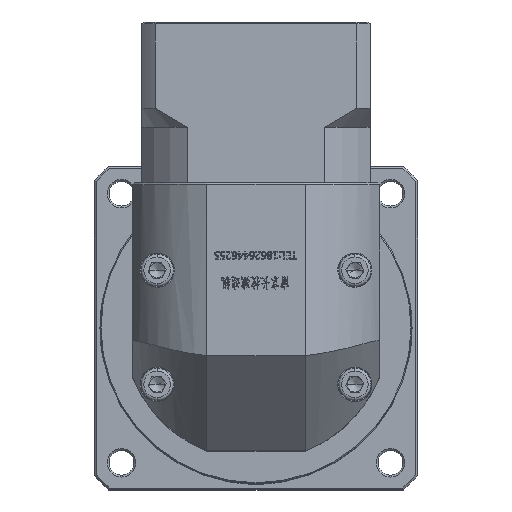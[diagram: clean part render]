
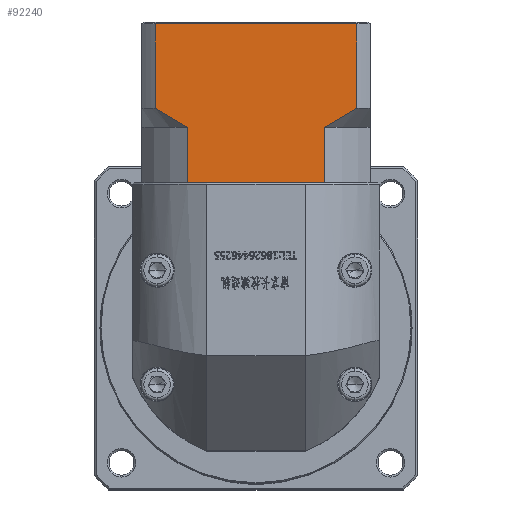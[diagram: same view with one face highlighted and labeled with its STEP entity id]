
A CAD part, top view. The second image highlights one B-rep face of the part: STEP entity #92240.
In plain terms, the highlighted planar face has unit normal (0, 0, 1).
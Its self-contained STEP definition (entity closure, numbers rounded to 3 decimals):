
#3182 = LINE ( 'NONE', #9549, #107344 ) ;
#5200 = DIRECTION ( 'NONE',  ( 0., 1., 0. ) ) ;
#5538 = CARTESIAN_POINT ( 'NONE',  ( -33.225, 38.259, 245.652 ) ) ;
#9475 = VECTOR ( 'NONE', #63470, 1000. ) ;
#9549 = CARTESIAN_POINT ( 'NONE',  ( -45.197, 38.259, 245.652 ) ) ;
#12611 = DIRECTION ( 'NONE',  ( 0., -1., 0. ) ) ;
#16058 = VERTEX_POINT ( 'NONE', #50449 ) ;
#18042 = CARTESIAN_POINT ( 'NONE',  ( 2.831, 52.759, 245.652 ) ) ;
#18544 = CARTESIAN_POINT ( 'NONE',  ( -45.197, 80.459, 245.652 ) ) ;
#19484 = CARTESIAN_POINT ( 'NONE',  ( -33.225, 52.759, 245.652 ) ) ;
#19737 = CARTESIAN_POINT ( 'NONE',  ( -45.197, 38.259, 245.652 ) ) ;
#23014 = ORIENTED_EDGE ( 'NONE', *, *, #70176, .F. ) ;
#23106 = ORIENTED_EDGE ( 'NONE', *, *, #152521, .T. ) ;
#29087 = LINE ( 'NONE', #19484, #65192 ) ;
#31679 = CARTESIAN_POINT ( 'NONE',  ( 9.898, 56.857, 245.652 ) ) ;
#31932 = AXIS2_PLACEMENT_3D ( 'NONE', #18544, #113568, #32200 ) ;
#31937 = ORIENTED_EDGE ( 'NONE', *, *, #62387, .F. ) ;
#32200 = DIRECTION ( 'NONE',  ( 0., 1., 0. ) ) ;
#32456 = LINE ( 'NONE', #49919, #104671 ) ;
#36131 = EDGE_CURVE ( 'NONE', #88539, #143866, #3182, .T. ) ;
#39018 = CARTESIAN_POINT ( 'NONE',  ( 1.84, 38.259, 245.652 ) ) ;
#40578 = EDGE_CURVE ( 'NONE', #69391, #143352, #79104, .T. ) ;
#41499 = CARTESIAN_POINT ( 'NONE',  ( -41.654, 57.759, 245.652 ) ) ;
#41886 = EDGE_CURVE ( 'NONE', #87083, #83949, #29087, .T. ) ;
#45961 = EDGE_LOOP ( 'NONE', ( #134159, #23106, #31937, #114721, #162412, #94369, #97376, #74722, #23014, #64492 ) ) ;
#49842 = CARTESIAN_POINT ( 'NONE',  ( 11.261, 52.759, 245.652 ) ) ;
#49919 = CARTESIAN_POINT ( 'NONE',  ( -41.654, 52.759, 245.652 ) ) ;
#50449 = CARTESIAN_POINT ( 'NONE',  ( 11.261, 79.959, 245.652 ) ) ;
#51110 = DIRECTION ( 'NONE',  ( 1., 0., 0. ) ) ;
#61020 = CARTESIAN_POINT ( 'NONE',  ( 2.831, 52.759, 245.652 ) ) ;
#62387 = EDGE_CURVE ( 'NONE', #167172, #81911, #32456, .T. ) ;
#62924 = VERTEX_POINT ( 'NONE', #85261 ) ;
#63437 = CARTESIAN_POINT ( 'NONE',  ( -36.108, 54.31, 245.652 ) ) ;
#63439 = DIRECTION ( 'NONE',  ( 0., -1., 0. ) ) ;
#63470 = DIRECTION ( 'NONE',  ( 1., 0., 0. ) ) ;
#64208 = VECTOR ( 'NONE', #125493, 1000. ) ;
#64492 = ORIENTED_EDGE ( 'NONE', *, *, #40578, .T. ) ;
#65192 = VECTOR ( 'NONE', #5200, 1000. ) ;
#69210 = VECTOR ( 'NONE', #96989, 1000. ) ;
#69391 = VERTEX_POINT ( 'NONE', #61020 ) ;
#70176 = EDGE_CURVE ( 'NONE', #69391, #62924, #123655, .T. ) ;
#72062 = CARTESIAN_POINT ( 'NONE',  ( 5.713, 54.309, 245.652 ) ) ;
#74722 = ORIENTED_EDGE ( 'NONE', *, *, #143166, .T. ) ;
#77168 = CARTESIAN_POINT ( 'NONE',  ( -33.225, 52.759, 245.652 ) ) ;
#79104 = B_SPLINE_CURVE_WITH_KNOTS ( 'NONE', 3,
 ( #18042, #167384, #72062, #113043, #31679, #126834 ),
 .UNSPECIFIED., .F., .F.,
 ( 4, 2, 4 ),
 ( 0.1, 0.104, 0.109 ),
 .UNSPECIFIED. ) ;
#81911 = VERTEX_POINT ( 'NONE', #103855 ) ;
#83949 = VERTEX_POINT ( 'NONE', #148988 ) ;
#85261 = CARTESIAN_POINT ( 'NONE',  ( 2.831, 38.259, 245.652 ) ) ;
#87083 = VERTEX_POINT ( 'NONE', #5538 ) ;
#88539 = VERTEX_POINT ( 'NONE', #167434 ) ;
#92240 = ADVANCED_FACE ( 'NONE', ( #104876 ), #140383, .F. ) ;
#94369 = ORIENTED_EDGE ( 'NONE', *, *, #136376, .T. ) ;
#96989 = DIRECTION ( 'NONE',  ( 1., 0., 0. ) ) ;
#97376 = ORIENTED_EDGE ( 'NONE', *, *, #36131, .T. ) ;
#100328 = LINE ( 'NONE', #124909, #64208 ) ;
#103855 = CARTESIAN_POINT ( 'NONE',  ( -41.654, 79.959, 245.652 ) ) ;
#104671 = VECTOR ( 'NONE', #158201, 1000. ) ;
#104876 = FACE_OUTER_BOUND ( 'NONE', #45961, .T. ) ;
#107344 = VECTOR ( 'NONE', #51110, 1000. ) ;
#107626 = CARTESIAN_POINT ( 'NONE',  ( 2.831, 52.759, 245.652 ) ) ;
#113043 = CARTESIAN_POINT ( 'NONE',  ( 8.518, 55.983, 245.652 ) ) ;
#113568 = DIRECTION ( 'NONE',  ( 0., 0., -1. ) ) ;
#114721 = ORIENTED_EDGE ( 'NONE', *, *, #133024, .T. ) ;
#117575 = CARTESIAN_POINT ( 'NONE',  ( -41.654, 57.759, 245.652 ) ) ;
#123655 = LINE ( 'NONE', #107626, #159946 ) ;
#124909 = CARTESIAN_POINT ( 'NONE',  ( -45.197, 79.959, 245.652 ) ) ;
#125493 = DIRECTION ( 'NONE',  ( -1., 0., 0. ) ) ;
#125560 = B_SPLINE_CURVE_WITH_KNOTS ( 'NONE', 3,
 ( #117575, #131331, #144990, #63437, #158725, #77168 ),
 .UNSPECIFIED., .F., .F.,
 ( 4, 2, 4 ),
 ( 0.052, 0.057, 0.062 ),
 .UNSPECIFIED. ) ;
#126834 = CARTESIAN_POINT ( 'NONE',  ( 11.261, 57.759, 245.652 ) ) ;
#131331 = CARTESIAN_POINT ( 'NONE',  ( -40.295, 56.859, 245.652 ) ) ;
#133024 = EDGE_CURVE ( 'NONE', #167172, #83949, #125560, .T. ) ;
#134159 = ORIENTED_EDGE ( 'NONE', *, *, #173223, .F. ) ;
#136376 = EDGE_CURVE ( 'NONE', #87083, #88539, #149908, .T. ) ;
#137174 = LINE ( 'NONE', #49842, #173441 ) ;
#140383 = PLANE ( 'NONE',  #31932 ) ;
#143166 = EDGE_CURVE ( 'NONE', #143866, #62924, #173602, .T. ) ;
#143352 = VERTEX_POINT ( 'NONE', #145122 ) ;
#143866 = VERTEX_POINT ( 'NONE', #39018 ) ;
#144990 = CARTESIAN_POINT ( 'NONE',  ( -38.916, 55.986, 245.652 ) ) ;
#145122 = CARTESIAN_POINT ( 'NONE',  ( 11.261, 57.759, 245.652 ) ) ;
#148988 = CARTESIAN_POINT ( 'NONE',  ( -33.225, 52.759, 245.652 ) ) ;
#149908 = LINE ( 'NONE', #158758, #9475 ) ;
#152521 = EDGE_CURVE ( 'NONE', #16058, #81911, #100328, .T. ) ;
#158201 = DIRECTION ( 'NONE',  ( 0., 1., 0. ) ) ;
#158725 = CARTESIAN_POINT ( 'NONE',  ( -34.677, 53.507, 245.652 ) ) ;
#158758 = CARTESIAN_POINT ( 'NONE',  ( -45.197, 38.259, 245.652 ) ) ;
#159946 = VECTOR ( 'NONE', #12611, 1000. ) ;
#162412 = ORIENTED_EDGE ( 'NONE', *, *, #41886, .F. ) ;
#167172 = VERTEX_POINT ( 'NONE', #41499 ) ;
#167384 = CARTESIAN_POINT ( 'NONE',  ( 4.287, 53.509, 245.652 ) ) ;
#167434 = CARTESIAN_POINT ( 'NONE',  ( -32.234, 38.259, 245.652 ) ) ;
#173223 = EDGE_CURVE ( 'NONE', #16058, #143352, #137174, .T. ) ;
#173441 = VECTOR ( 'NONE', #63439, 1000. ) ;
#173602 = LINE ( 'NONE', #19737, #69210 ) ;
